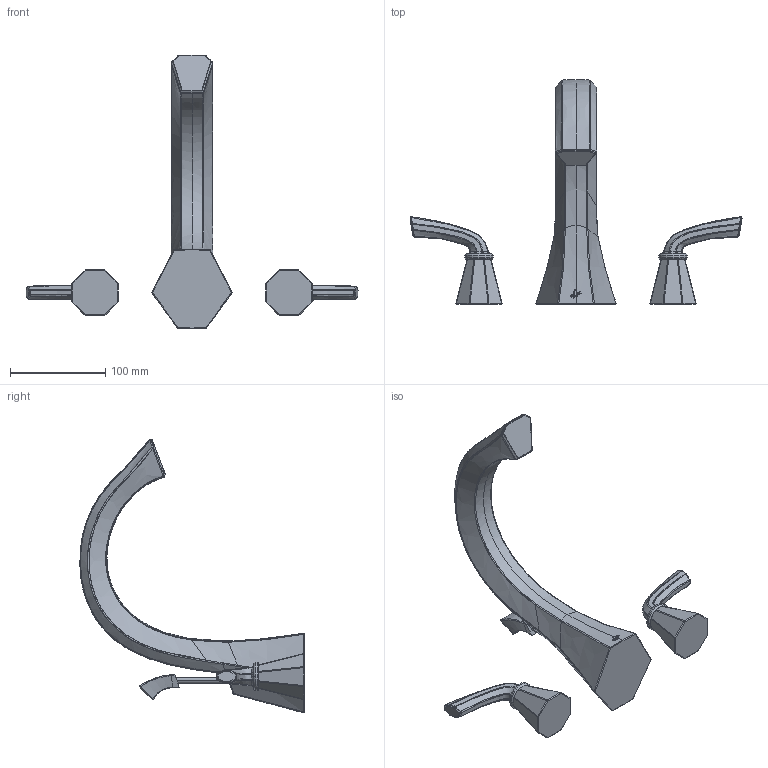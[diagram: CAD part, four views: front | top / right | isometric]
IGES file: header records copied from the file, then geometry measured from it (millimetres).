
Start section:  PTC IGES file: sku_ts243.igs
Global section: file name: sku_ts243.igs; native system: Pro/ENGINEER by Parametric Technology Corporation; preprocessor: 2006460; author: 9dutterb; organization: Unknown; date: 20071105.113623; units: inch
Bounding box: 347.8 x 234.94 x 286.56 mm (x, y, z)
Surface area: 95059.5 mm2 (no closed solid volume)
Topology: 0 solids, 0 shells, 424 faces, 1960 edges, 1960 vertices
Faces by surface type: bspline 341, revolution 78, extrusion 5
